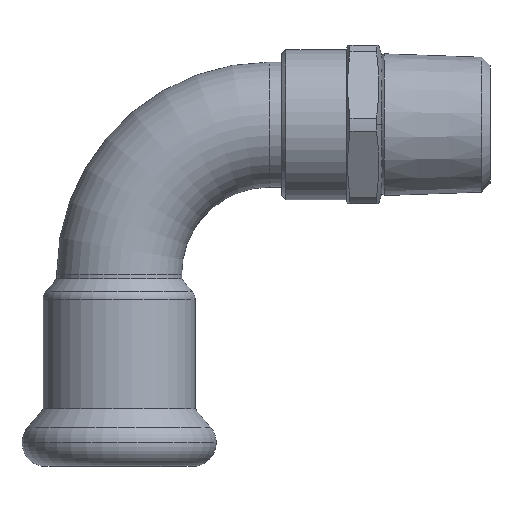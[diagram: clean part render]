
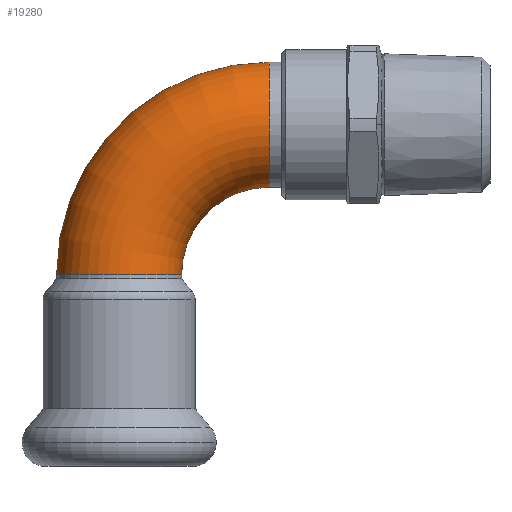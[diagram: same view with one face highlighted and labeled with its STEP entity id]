
A CAD part, top view. The second image highlights one B-rep face of the part: STEP entity #19280.
In plain terms, the highlighted toroidal (fillet/blend) face has major radius 18 mm and minor radius 7.5 mm.
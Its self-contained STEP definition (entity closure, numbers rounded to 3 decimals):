
#13140=CARTESIAN_POINT('',(-83.071,28.74,
0.));
#13150=VERTEX_POINT('',#13140);
#13230=CARTESIAN_POINT('',(-83.071,13.74,
0.));
#13240=VERTEX_POINT('',#13230);
#14380=CARTESIAN_POINT('',(-93.571,3.24,
0.));
#14390=VERTEX_POINT('',#14380);
#14440=CARTESIAN_POINT('',(-101.071,3.24,0.));
#14450=DIRECTION('',(0.,-1.,0.));
#14460=DIRECTION('',(1.,0.,0.));
#14470=AXIS2_PLACEMENT_3D('',#14440,#14450,#14460);
#14480=CIRCLE('',#14470,7.5);
#14490=CARTESIAN_POINT('',(-108.571,3.24,
0.));
#14500=VERTEX_POINT('',#14490);
#14710=CARTESIAN_POINT('',(-83.071,3.24,
0.));
#14720=DIRECTION('',(0.,0.,1.));
#14730=DIRECTION('',(0.,1.,0.));
#14740=AXIS2_PLACEMENT_3D('',#14710,#14720,#14730);
#14750=TOROIDAL_SURFACE('',#14740,18.,7.5);
#14760=CARTESIAN_POINT('',(-83.071,3.24,
0.));
#14770=DIRECTION('',(0.,0.,1.));
#14780=DIRECTION('',(0.,1.,0.));
#14790=AXIS2_PLACEMENT_3D('',#14760,#14770,#14780);
#14800=CIRCLE('',#14790,10.5);
#14810=EDGE_CURVE('',#13240,#14390,#14800,.T.);
#14840=CARTESIAN_POINT('',(-83.071,3.24,
0.));
#14850=DIRECTION('',(0.,0.,1.));
#14860=DIRECTION('',(0.,1.,0.));
#14870=AXIS2_PLACEMENT_3D('',#14840,#14850,#14860);
#14880=CIRCLE('',#14870,25.5);
#14890=EDGE_CURVE('',#13150,#14500,#14880,.T.);
#18380=CARTESIAN_POINT('',(-83.071,21.24,
0.));
#18390=DIRECTION('',(-1.,0.,0.));
#18400=DIRECTION('',(0.,-1.,0.));
#18410=AXIS2_PLACEMENT_3D('',#18380,#18390,#18400);
#18420=CIRCLE('',#18410,7.5);
#18430=EDGE_CURVE('',#13240,#13150,#18420,.T.);
#19210=EDGE_CURVE('',#14390,#14500,#14480,.T.);
#19220=ORIENTED_EDGE('',*,*,#19210,.F.);
#19230=ORIENTED_EDGE('',*,*,#14890,.T.);
#19240=ORIENTED_EDGE('',*,*,#18430,.T.);
#19250=ORIENTED_EDGE('',*,*,#14810,.F.);
#19260=EDGE_LOOP('',(#19250,#19240,#19230,#19220));
#19270=FACE_OUTER_BOUND('',#19260,.T.);
#19280=ADVANCED_FACE('',(#19270),#14750,.T.);
